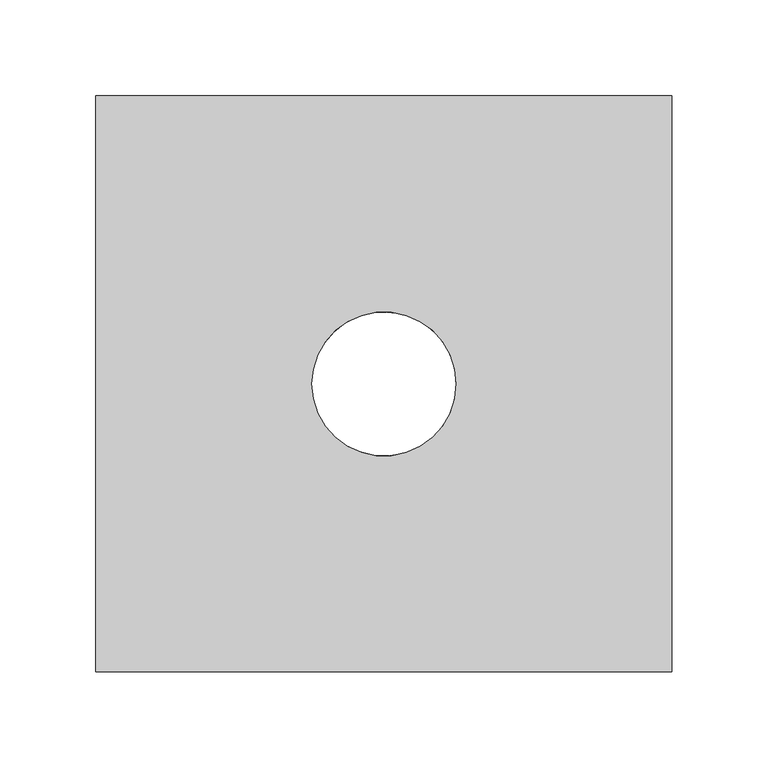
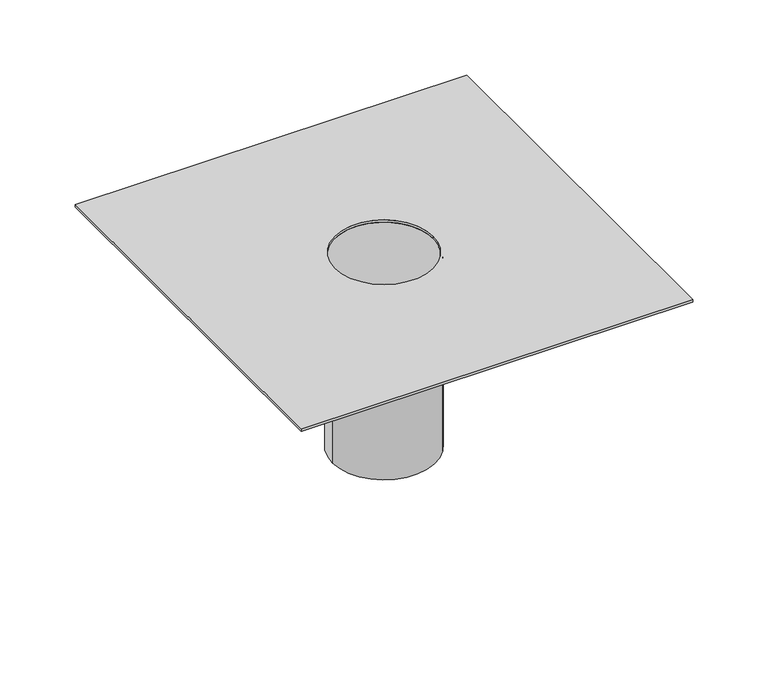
"""IFC4 building model written with IfcOpenShell, lengths in millimetres: proxy geometry, Modelos genéricos 1 : Modelos genéricos 1."""

from ifc_helpers import new_model, si_unit, point, frame, frame_2d, origin, place, context, project, spatial, polyline, circle_curve, trimmed, segment, composite_curve, outline, extrude, source, transform, mapped, element, save


def generic_models_6702cae9(model_context):
    return source(origin(), model_context, "Body", "SweptSolid", [
        extrude(outline(composite_curve([segment(trimmed(circle_curve(frame_2d((922.6644952, -1237.9912025)), 39.5), [point((953.4891912, -1262.6911644))], [point((883.1644952, -1237.9912025))], False, "CARTESIAN"), True, "CONTINUOUS"), segment(trimmed(circle_curve(frame_2d((922.6644952, -1237.9912025)), 39.5), [point((883.1644952, -1237.9912025))], [point((953.4891912, -1262.6911644))], False, "CARTESIAN"), True, "CONTINUOUS")], self_intersect=False), holes=[composite_curve([segment(trimmed(circle_curve(frame_2d((922.6644952, -1237.9912025)), 37.5), [point((885.1644952, -1237.9912025))], [point((951.9284471, -1261.4405334))], True, "CARTESIAN"), True, "CONTINUOUS"), segment(trimmed(circle_curve(frame_2d((922.6644952, -1237.9912025)), 37.5), [point((951.9284471, -1261.4405334))], [point((885.1644952, -1237.9912025))], True, "CARTESIAN"), True, "CONTINUOUS")], self_intersect=False)]), frame((0.0, 0.0, -135.523798), z_axis=(0.0, 0.0, 1.0), x_axis=(1.0, 0.0, 0.0)), (0.0, 0.0, 1.0), 154.9299739),
        extrude(outline(polyline([(1072.6644952, -1087.9912025), (1072.6644952, -1387.9912025), (772.6644952, -1387.9912025), (772.6644952, -1087.9912025), (1072.6644952, -1087.9912025)]), holes=[composite_curve([segment(trimmed(circle_curve(frame_2d((922.6644952, -1237.9912025)), 37.5), [point((885.1644952, -1237.9912025))], [point((960.1644952, -1237.9912025))], True, "CARTESIAN"), True, "CONTINUOUS"), segment(trimmed(circle_curve(frame_2d((922.6644952, -1237.9912025)), 37.5), [point((960.1644952, -1237.9912025))], [point((885.1644952, -1237.9912025))], True, "CARTESIAN"), True, "CONTINUOUS")], self_intersect=False)]), frame((0.0, 0.0, 19.4061759), z_axis=(0.0, 0.0, 1.0), x_axis=(1.0, 0.0, 0.0)), (0.0, 0.0, 1.0), 2.0735733),
    ])


if __name__ == "__main__":
    model = new_model("IFC4")
    model_context = context("Model", 3, world=origin())
    ifc_project = project(units=[si_unit("LENGTHUNIT", "METRE", prefix="MILLI")], contexts=[model_context])
    site = spatial("IfcSite", under=ifc_project)
    building = spatial("IfcBuilding", under=site)
    placement = place(None, origin())
    generic_models_shape = generic_models_6702cae9(model_context)
    element("IfcBuildingElementProxy", 1, Name="Modelos genéricos 1 : Modelos genéricos 1", ObjectType="Modelos genéricos 1 : Modelos genéricos 1", at=placement, inside=building, context=model_context, shape_type="MappedRepresentation", body=[
        mapped(generic_models_shape, transform((0.0, 0.0, 0.0), x_axis=(1.0, 0.0, 0.0), y_axis=(0.0, 1.0, 0.0), z_axis=(0.0, 0.0, 1.0))),
    ])
    save(model, "model.ifc")
